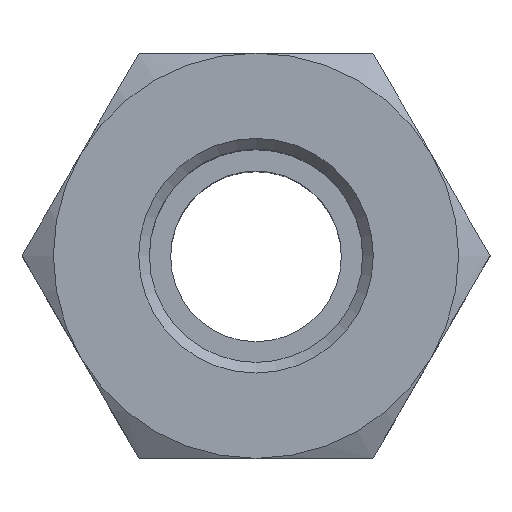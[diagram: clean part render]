
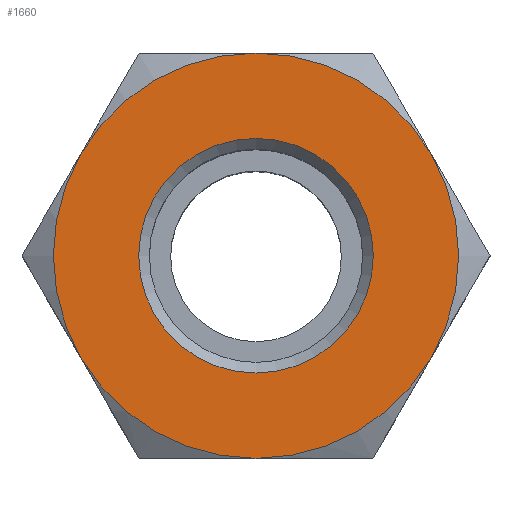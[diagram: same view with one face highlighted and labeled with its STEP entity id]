
A CAD part, top view. The second image highlights one B-rep face of the part: STEP entity #1660.
In plain terms, the highlighted planar face has unit normal (0, 0, 1).
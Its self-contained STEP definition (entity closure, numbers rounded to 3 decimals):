
#1660=ADVANCED_FACE('', (#1670,#1680), #1690, .T.);
#5830=AXIS2_PLACEMENT_3D('Ax2Pl3d', #5840, #5850, #5860);
#5870=AXIS2_PLACEMENT_3D('Ax2Pl3d', #5880, #5890, #5900);
#5910=AXIS2_PLACEMENT_3D('Ax2Pl3d', #5920, #5930, #5940);
#5950=AXIS2_PLACEMENT_3D('Ax2Pl3d', #5960, #5970, #5980);
#5990=AXIS2_PLACEMENT_3D('Ax2Pl3d', #6000, #6010, #6020);
#6030=AXIS2_PLACEMENT_3D('Ax2Pl3d', #6040, #6050, #6060);
#6070=AXIS2_PLACEMENT_3D('Ax2Pl3d', #6080, #6090, #6100);
#6110=AXIS2_PLACEMENT_3D('Ax2Pl3d', #6120, #6130, #6140);
#9640=CARTESIAN_POINT('', (0.352,10.354,43.749));
#9710=CARTESIAN_POINT('', (8.579,15.104,43.749));
#9760=CARTESIAN_POINT('', (16.806,10.354,43.749));
#9830=CARTESIAN_POINT('', (16.806,0.854,43.749));
#9870=CARTESIAN_POINT('', (8.579,-3.896,43.749));
#9910=CARTESIAN_POINT('', (0.352,0.854,43.749))
;
#5840=CARTESIAN_POINT('HicPkt', (18.079,5.604,
43.749));
#5880=CARTESIAN_POINT('HicPkt', (8.579,5.604,
43.749));
#5920=CARTESIAN_POINT('HicPkt', (8.579,5.604,
43.749));
#5960=CARTESIAN_POINT('HicPkt', (8.579,5.604,
43.749));
#6000=CARTESIAN_POINT('HicPkt', (8.579,5.604,
43.749));
#6040=CARTESIAN_POINT('HicPkt', (8.579,5.604,
43.749));
#6080=CARTESIAN_POINT('HicPkt', (8.579,5.604,
43.749));
#6120=CARTESIAN_POINT('HicPkt', (8.579,5.604,
43.749));
#9950=CARTESIAN_POINT('', (8.579,11.104,43.749));
#10390=CIRCLE('Circle', #5870, 9.5);
#10400=CIRCLE('Circle', #5910, 9.5);
#10410=CIRCLE('Circle', #5950, 9.5);
#10420=CIRCLE('Circle', #5990, 9.5);
#10430=CIRCLE('Circle', #6030, 9.5);
#10440=CIRCLE('Circle', #6070, 9.5);
#10450=CIRCLE('Circle', #6110, 5.5);
#5850=DIRECTION('Axis', (0.,0.,1.));
#5860=DIRECTION('RefDirection', (1.,0.,-0.));
#5890=DIRECTION('Axis', (0.,0.,1.));
#5900=DIRECTION('RefDirection', (1.,0.,-0.));
#5930=DIRECTION('Axis', (0.,0.,1.));
#5940=DIRECTION('RefDirection', (1.,0.,-0.));
#5970=DIRECTION('Axis', (0.,0.,1.));
#5980=DIRECTION('RefDirection', (1.,0.,-0.));
#6010=DIRECTION('Axis', (0.,0.,1.));
#6020=DIRECTION('RefDirection', (1.,0.,-0.));
#6050=DIRECTION('Axis', (0.,0.,1.));
#6060=DIRECTION('RefDirection', (1.,0.,-0.));
#6090=DIRECTION('Axis', (0.,0.,-1.));
#6100=DIRECTION('RefDirection', (-1.,-0.,0.));
#6130=DIRECTION('Axis', (0.,0.,-1.));
#6140=DIRECTION('RefDirection', (-1.,-0.,0.));
#15480=EDGE_CURVE('', #15030, #14930, #10390, .T.);
#15490=EDGE_CURVE('', #14930, #14800, #10400, .T.);
#15500=EDGE_CURVE('', #14800, #15330, #10410, .T.);
#15510=EDGE_CURVE('', #15330, #15250, #10420, .T.);
#15520=EDGE_CURVE('', #15250, #15170, #10430, .T.);
#15530=EDGE_CURVE('', #15030, #15170, #10440, .T.);
#15540=EDGE_CURVE('', #15550, #15550, #10450, .T.);
#17730=EDGE_LOOP('Edge_loop', (#17740,#17750,#17760,#17770,#17780,
#17790));
#17800=EDGE_LOOP('Edge_loop', (#17810));
#1680=FACE_BOUND('', #17800, .T.);
#1670=FACE_OUTER_BOUND('Face_outer_bound', #17730, .T.);
#17740=ORIENTED_EDGE('', *, *, #15480, .T.);
#17750=ORIENTED_EDGE('', *, *, #15490, .T.);
#17760=ORIENTED_EDGE('', *, *, #15500, .T.);
#17770=ORIENTED_EDGE('', *, *, #15510, .T.);
#17780=ORIENTED_EDGE('', *, *, #15520, .T.);
#17790=ORIENTED_EDGE('', *, *, #15530, .F.);
#17810=ORIENTED_EDGE('', *, *, #15540, .T.);
#1690=PLANE('Plane', #5830);
#14800=VERTEX_POINT('', #9640);
#14930=VERTEX_POINT('', #9710);
#15030=VERTEX_POINT('', #9760);
#15170=VERTEX_POINT('', #9830);
#15250=VERTEX_POINT('', #9870);
#15330=VERTEX_POINT('', #9910);
#15550=VERTEX_POINT('', #9950);
